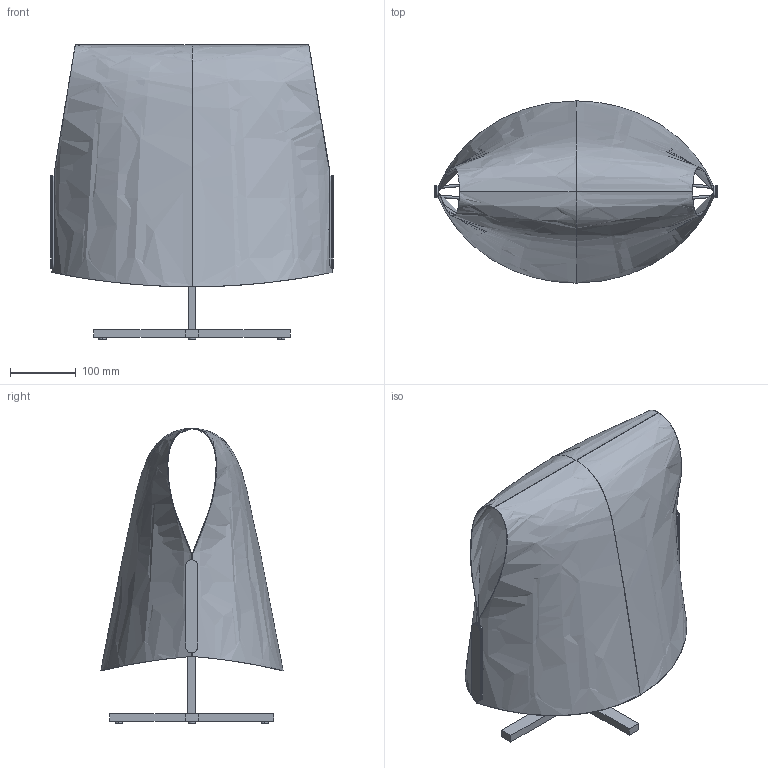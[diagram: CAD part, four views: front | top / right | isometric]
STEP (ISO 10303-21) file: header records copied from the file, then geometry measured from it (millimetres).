
FILE_DESCRIPTION(/* description */ (''),/* implementation_level */ '2;1');
FILE_NAME(/* name */ '23002-57.stp',/* time_stamp */ '2024-07-04T10:54:36+02:00',/* author */ ('RenataManzini'),/* organization */ (''),/* preprocessor_version */ 'ST-DEVELOPER v20',/* originating_system */ 'AutoCAD Mechanical',/* authorisation */ '');
FILE_SCHEMA (('AUTOMOTIVE_DESIGN { 1 0 10303 214 3 1 1 }'));
Length unit declared in the file: millimetre
Products named in the file (3): Product; luang_m_sobremesa - pieza_luang-712195-_3D_; luang_m_sobremesa - LUANG M SOBREMESA_dwg-712193-_3D_
Assembly tree (2 placements, depth 3):
  Product
    luang_m_sobremesa - pieza_luang-712195-_3D_
      luang_m_sobremesa - LUANG M SOBREMESA_dwg-712193-_3D_
Bounding box: 430.4 x 277.7 x 449.26 mm (x, y, z)
Volume: 241310.9 mm3; surface area: 807772.7 mm2
Topology: 8 solids, 9 shells, 112 faces, 260 edges, 163 vertices
Faces by surface type: plane 56, cylinder 34, bspline 20, torus 2
Entity records: 5872 total; most frequent: CARTESIAN_POINT 3377, ORIENTED_EDGE 490, DIRECTION 475, EDGE_CURVE 257, AXIS2_PLACEMENT_3D 170, VERTEX_POINT 158, LINE 135, VECTOR 135
